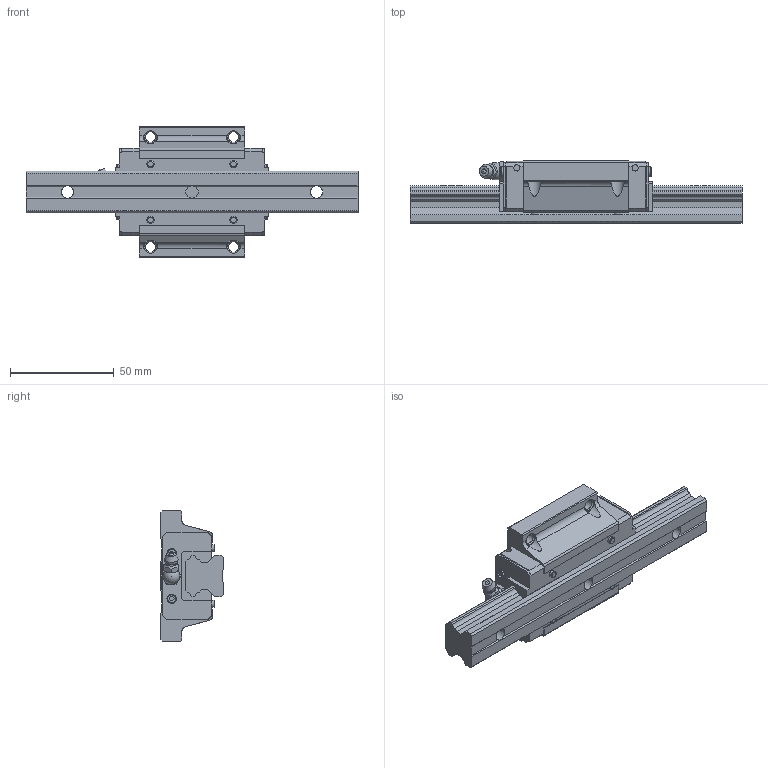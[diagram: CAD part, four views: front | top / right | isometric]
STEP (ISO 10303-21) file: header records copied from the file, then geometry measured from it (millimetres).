
FILE_DESCRIPTION(/* description */ ('STEP AP203'),/* implementation_level */ '2;1');
FILE_NAME(/* name */ 'HSR20M2A1SS-160L_G20_0_B-M6F_43_0_0_0',/* time_stamp */ '2024-05-23T08:55:48+02:00',/* author */ ('License CC BY-ND 4.0'),/* organization */ ('CADENAS'),/* preprocessor_version */ 'ST-DEVELOPER v19.3',/* originating_system */ 'PARTsolutions',/* authorisation */ ' ');
FILE_SCHEMA (('CONFIG_CONTROL_DESIGN'));
Length unit declared in the file: millimetre
Products named in the file (4): HSR20M2A1SS-160L_G20_0_B-M6F_43_0_0_0; HSR20M2A116020 Rail; HSR20M2ASSB-M6F Slider; hsr_ftht_B-M6F_grease_nipple_joint
Assembly tree (3 placements, depth 2):
  HSR20M2A1SS-160L_G20_0_B-M6F_43_0_0_0
    HSR20M2A116020 Rail
    HSR20M2ASSB-M6F Slider
    hsr_ftht_B-M6F_grease_nipple_joint
Bounding box: 160 x 30 x 63 mm (x, y, z)
Volume: 116616.7 mm3; surface area: 31450.2 mm2
Topology: 3 solids, 3 shells, 298 faces, 783 edges, 506 vertices
Faces by surface type: plane 212, cylinder 52, cone 21, torus 10, sphere 3
Full cylindrical faces by diameter (mm): 3 x4, 3.43 x4, 4.5 x4, 4.917 x6, 6 x6, 8 x1, 9.5 x3
Entity records: 8901 total; most frequent: CARTESIAN_POINT 1645, DIRECTION 1448, ORIENTED_EDGE 1430, EDGE_CURVE 715, LINE 522, VECTOR 522, VERTEX_POINT 496, AXIS2_PLACEMENT_3D 463
